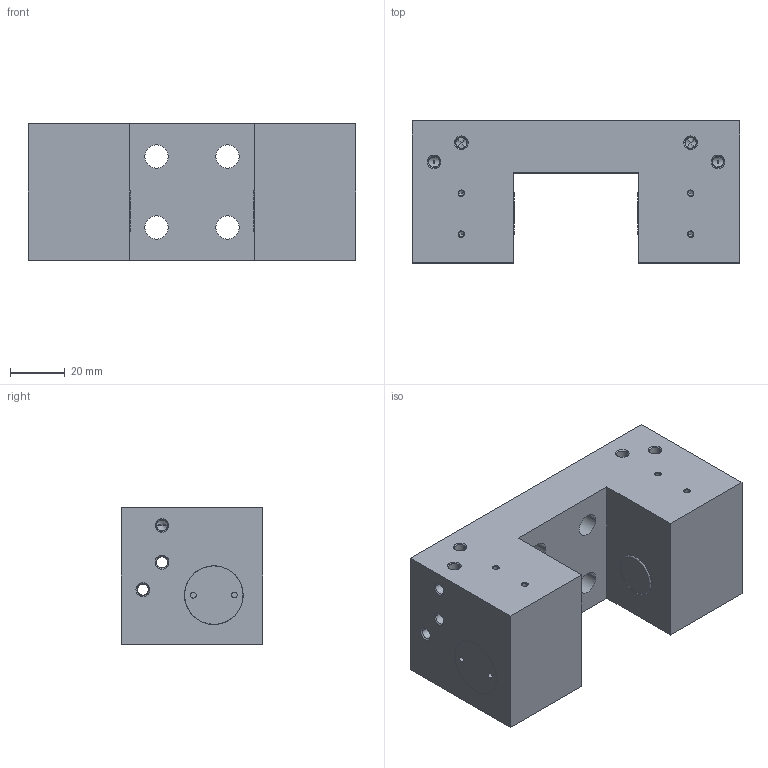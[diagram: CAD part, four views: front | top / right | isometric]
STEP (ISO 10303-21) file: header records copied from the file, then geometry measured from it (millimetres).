
FILE_DESCRIPTION((''),'2;1');
FILE_NAME('FRC45T02SE-DE01','2017-09-19T08:53:23',('pietro.a'),(''),'CREO PARAMETRIC BY PTC INC, 2016510','CREO PARAMETRIC BY PTC INC, 2016510','');
FILE_SCHEMA(('CONFIG_CONTROL_DESIGN'));
Length unit declared in the file: millimetre
Products named in the file (1): FRC45T02SE-DE01
Bounding box: 120 x 52 x 50 mm (x, y, z)
Volume: 186983.9 mm3; surface area: 48584.1 mm2
Topology: 1 solids, 1 shells, 310 faces, 730 edges, 428 vertices
Faces by surface type: cylinder 150, cone 88, plane 56, torus 16
Entity records: 9679 total; most frequent: CARTESIAN_POINT 2537, DIRECTION 1548, ORIENTED_EDGE 1428, EDGE_CURVE 714, AXIS2_PLACEMENT_3D 632, VERTEX_POINT 428, EDGE_LOOP 364, CIRCLE 322
